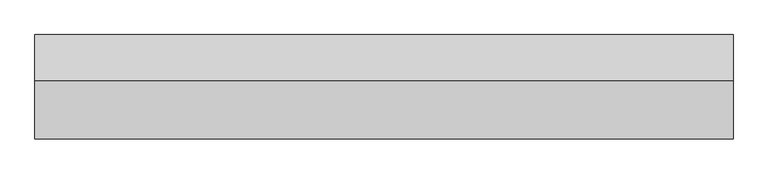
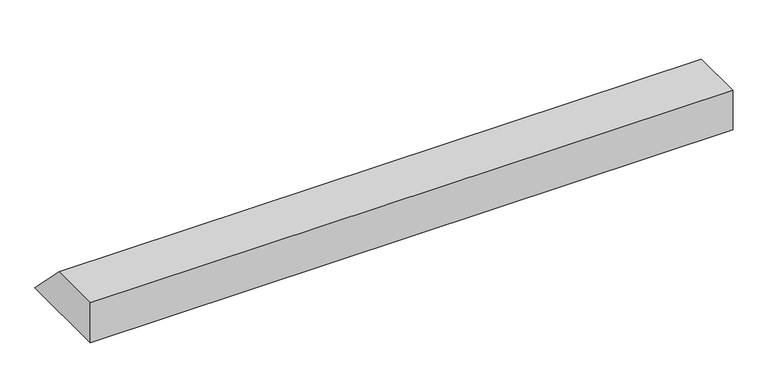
"""IFC4 building model written with IfcOpenShell, lengths in millimetres: proxy geometry, Gousset radier bord droit : Gousset radier bord droit."""

import ifcopenshell
import ifcopenshell.guid

model = None  # the IFC model being written
_history = None  # IfcOwnerHistory: only IFC2X3 demands one
_inside = {}  # id of a spatial element -> (the spatial element, [elements in it])
_under = {}  # id of a project, library or spatial element -> (it, [spatial elements below it])
_declared = {}  # id of a project -> (the project, [libraries it declares])
_typed = {}  # id of a type object -> (the type object, [elements of that type])
_made_of = {}  # id of a material, layer set ... -> (it, [elements and type objects made of it])


def new_model(schema):
    """Start an empty IFC model of exactly this schema.

    Asked for "IFC4X3", IfcOpenShell would pick the latest addendum, in which some entities
    have other attributes; the version numbers below select the first issue.
    IFC2X3 requires an IfcOwnerHistory on every rooted entity: one is made here for all.
    """
    global model, _history
    if schema == "IFC4X3":
        model = ifcopenshell.file(schema_version=(4, 3, 0, 0))
    else:
        model = ifcopenshell.file(schema=schema)
    _inside.clear()
    _under.clear()
    _declared.clear()
    _typed.clear()
    _made_of.clear()
    _history = None
    if model.schema == "IFC2X3":
        org = make("IfcOrganization", Name="unknown")
        user = make(
            "IfcPersonAndOrganization",
            ThePerson=make("IfcPerson", FamilyName="unknown"),
            TheOrganization=org,
        )
        app = make(
            "IfcApplication",
            ApplicationDeveloper=org,
            Version="unknown",
            ApplicationFullName="unknown",
            ApplicationIdentifier="unknown",
        )
        _history = make(
            "IfcOwnerHistory",
            OwningUser=user,
            OwningApplication=app,
            ChangeAction="ADDED",
            CreationDate=0,
        )
    return model


def make(cls, **values):
    """One entity of the class cls with the attributes given. An attribute that is None is left unset."""
    return model.create_entity(
        cls, **{name: value for name, value in values.items() if value is not None}
    )


def rooted(cls, **values):
    """An entity with a GlobalId (a new one), such as an element, a storey or a relation."""
    return make(cls, GlobalId=ifcopenshell.guid.new(), OwnerHistory=_history, **values)


def si_unit(unit_type, name, prefix=None):
    """IfcSIUnit, for example si_unit("LENGTHUNIT", "METRE", prefix="MILLI")."""
    return make("IfcSIUnit", UnitType=unit_type, Prefix=prefix, Name=name)


def assignment(units):
    """IfcUnitAssignment: the units of a project."""
    return None if units is None else make("IfcUnitAssignment", Units=units)


def point(xyz):
    """IfcCartesianPoint."""
    return None if xyz is None else make("IfcCartesianPoint", Coordinates=xyz)


def direction(xyz):
    """IfcDirection."""
    return None if xyz is None else make("IfcDirection", DirectionRatios=xyz)


def frame(location, z_axis=None, x_axis=None):
    """IfcAxis2Placement3D, a coordinate frame: its origin and axes. An axis left out is left unset."""
    return make(
        "IfcAxis2Placement3D",
        Location=point(location),
        Axis=direction(z_axis),
        RefDirection=direction(x_axis),
    )


def origin():
    """The frame at (0, 0, 0) with its axes left unset."""
    return frame((0.0, 0.0, 0.0))


def place(relative_to, where):
    """IfcLocalPlacement: puts the frame where relative to a parent placement (None: the world)."""
    return make(
        "IfcLocalPlacement", PlacementRelTo=relative_to, RelativePlacement=where
    )


def context(
    kind, dimensions, precision=None, world=None, true_north=None, identifier=None
):
    """IfcGeometricRepresentationContext, for example the 3D "Model" context."""
    return make(
        "IfcGeometricRepresentationContext",
        ContextIdentifier=identifier,
        ContextType=kind,
        CoordinateSpaceDimension=dimensions,
        Precision=precision,
        WorldCoordinateSystem=world,
        TrueNorth=true_north,
    )


def project(units=None, contexts=None):
    """IfcProject with its units and contexts."""
    return rooted(
        "IfcProject",
        Name="project",
        RepresentationContexts=contexts,
        UnitsInContext=assignment(units),
    )


def spatial(cls, under=None, at=None, **own):
    """A site, building, storey or space (cls), placed at a placement, below another one or the project."""
    s = rooted(cls, ObjectPlacement=at, **own)
    if under is not None:
        _under.setdefault(under.id(), (under, []))[1].append(s)
    return s


def polyline(points):
    """IfcPolyline through the points."""
    return make("IfcPolyline", Points=[point(p) for p in points])


def outline(outer, holes=None, kind="AREA"):
    """IfcArbitraryClosedProfileDef: a profile drawn as a closed curve; with holes, ...WithVoids."""
    if holes is None:
        return make("IfcArbitraryClosedProfileDef", ProfileType=kind, OuterCurve=outer)
    return make(
        "IfcArbitraryProfileDefWithVoids",
        ProfileType=kind,
        OuterCurve=outer,
        InnerCurves=holes,
    )


def extrude(swept, where, along, depth):
    """IfcExtrudedAreaSolid: the profile swept, set in the frame where, extruded along a direction by depth."""
    return make(
        "IfcExtrudedAreaSolid",
        SweptArea=swept,
        Position=where,
        ExtrudedDirection=direction(along),
        Depth=depth,
    )


def shape(context_of_items, identifier, shape_type, items):
    """IfcShapeRepresentation: the items that make up one representation, for example the "Body"."""
    return make(
        "IfcShapeRepresentation",
        ContextOfItems=context_of_items,
        RepresentationIdentifier=identifier,
        RepresentationType=shape_type,
        Items=items,
    )


def source(mapping_origin, context_of_items, identifier, shape_type, items):
    """IfcRepresentationMap: a shape defined once, which mapped items show again and again."""
    return make(
        "IfcRepresentationMap",
        MappingOrigin=mapping_origin,
        MappedRepresentation=shape(context_of_items, identifier, shape_type, items),
    )


def transform(
    local_origin,
    x_axis=None,
    y_axis=None,
    z_axis=None,
    scale=None,
    scale2=None,
    scale3=None,
    uniform=True,
):
    """IfcCartesianTransformationOperator3D, or its non-uniform kind. x_axis, y_axis, z_axis: its Axis1, 2, 3."""
    if uniform:
        return make(
            "IfcCartesianTransformationOperator3D",
            Axis1=direction(x_axis),
            Axis2=direction(y_axis),
            LocalOrigin=point(local_origin),
            Scale=scale,
            Axis3=direction(z_axis),
        )
    return make(
        "IfcCartesianTransformationOperator3DnonUniform",
        Axis1=direction(x_axis),
        Axis2=direction(y_axis),
        LocalOrigin=point(local_origin),
        Scale=scale,
        Axis3=direction(z_axis),
        Scale2=scale2,
        Scale3=scale3,
    )


def mapped(mapping_source, mapping_target):
    """IfcMappedItem: shows the shape of a source again, moved by a transform."""
    return make(
        "IfcMappedItem", MappingSource=mapping_source, MappingTarget=mapping_target
    )


def made_of(thing, what):
    """Note that an element or type object is made of a material, layer set ...; save() writes the relation."""
    if what is not None:
        _made_of.setdefault(what.id(), (what, []))[1].append(thing)
    return thing


def element(
    cls,
    number,
    at=None,
    inside=None,
    cuts=None,
    type_object=None,
    material=None,
    context=None,
    identifier="Body",
    shape_type=None,
    held_by="IfcProductDefinitionShape",
    body=None,
    shapes=None,
    **own,
):
    """One element of the class cls, such as IfcWall. Its Tag is "e" and its number.

    at: its placement. inside: the storey or other place that contains it. cuts: it is an
    opening in that element (IfcRelVoidsElement). A single representation is given by context,
    identifier, shape_type and body (its items); several are given by shapes. held_by: the class
    of the entity that holds the representations. save() writes the other relations.
    """
    e = rooted(cls, Tag="e%d" % number, ObjectPlacement=at, **own)
    if body is not None:
        shapes = [shape(context, identifier, shape_type, body)]
    if shapes is not None:
        e.Representation = make(held_by, Representations=shapes)
    if inside is not None:
        _inside.setdefault(inside.id(), (inside, []))[1].append(e)
    if cuts is not None:
        rooted(
            "IfcRelVoidsElement", RelatingBuildingElement=cuts, RelatedOpeningElement=e
        )
    if type_object is not None:
        _typed.setdefault(type_object.id(), (type_object, []))[1].append(e)
    return made_of(e, material)


def aggregate(whole, parts):
    """IfcRelAggregates: a whole, such as a stair, and the parts it consists of."""
    return rooted("IfcRelAggregates", RelatingObject=whole, RelatedObjects=parts)


def save(model, path):
    """Write the relations noted so far, then the file.

    IfcRelAggregates (storeys below a building ...), IfcRelContainedInSpatialStructure (elements
    in a storey), IfcRelDefinesByType, IfcRelAssociatesMaterial and IfcRelDeclares: one each for
    every whole, place, type object, material and project.
    """
    for whole, parts in _under.values():
        aggregate(whole, parts)
    for where, things in _inside.values():
        rooted(
            "IfcRelContainedInSpatialStructure",
            RelatedElements=things,
            RelatingStructure=where,
        )
    for kind, things in _typed.values():
        rooted("IfcRelDefinesByType", RelatedObjects=things, RelatingType=kind)
    for what, things in _made_of.values():
        rooted("IfcRelAssociatesMaterial", RelatedObjects=things, RelatingMaterial=what)
    for by, libraries in _declared.values():
        rooted("IfcRelDeclares", RelatingContext=by, RelatedDefinitions=libraries)
    model.write(path)


def generic_models_83797bec(model_context):
    return source(origin(), model_context, "Body", "SweptSolid", [
        extrude(outline(polyline([(0.0, 0.0), (0.0, 350.0), (450.0, 350.0), (800.0, 0.0), (0.0, 0.0)])), frame((0.0, 0.0, 0.0), z_axis=(1.0, 0.0, 0.0), x_axis=(0.0, 1.0, 0.0)), (0.0, 0.0, 1.0), 5350.7432018),
    ])


if __name__ == "__main__":
    model = new_model("IFC4")
    model_context = context("Model", 3, world=origin())
    ifc_project = project(units=[si_unit("LENGTHUNIT", "METRE", prefix="MILLI")], contexts=[model_context])
    site = spatial("IfcSite", under=ifc_project)
    building = spatial("IfcBuilding", under=site)
    placement = place(None, origin())
    generic_models_shape = generic_models_83797bec(model_context)
    element("IfcBuildingElementProxy", 1, Name="Gousset radier bord droit : Gousset radier bord droit", ObjectType="Gousset radier bord droit : Gousset radier bord droit", at=placement, inside=building, context=model_context, shape_type="MappedRepresentation", body=[
        mapped(generic_models_shape, transform((0.0, 0.0, 0.0), x_axis=(1.0, 0.0, 0.0), y_axis=(0.0, 1.0, 0.0), z_axis=(0.0, 0.0, 1.0))),
    ])
    save(model, "model.ifc")
